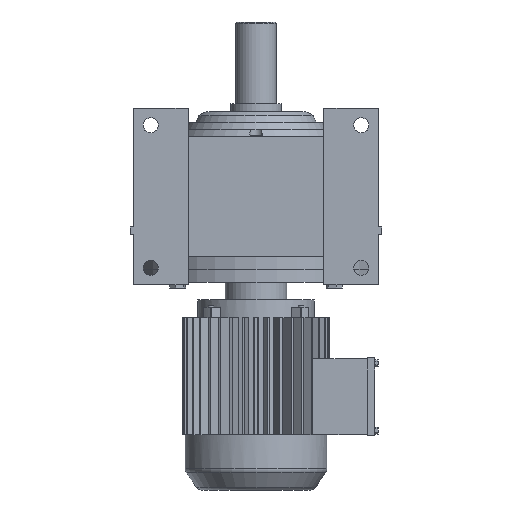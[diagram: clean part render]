
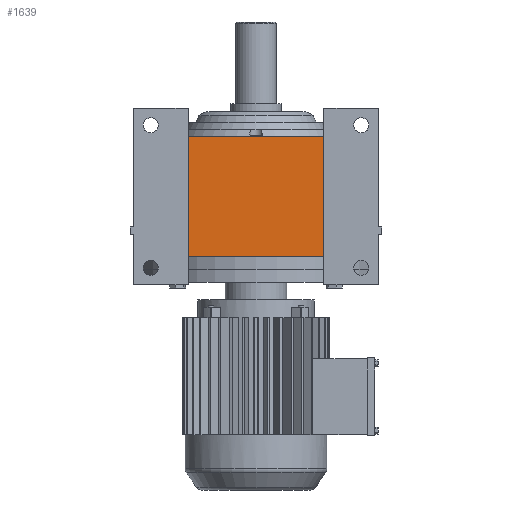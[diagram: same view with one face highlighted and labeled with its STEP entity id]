
A CAD part, front view. The second image highlights one B-rep face of the part: STEP entity #1639.
In plain terms, the highlighted planar face has unit normal (0, -1, 0).
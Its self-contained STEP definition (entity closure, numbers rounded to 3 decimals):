
#616 = PLANE('',#617);
#617 = AXIS2_PLACEMENT_3D('',#618,#619,#620);
#618 = CARTESIAN_POINT('',(-129.26,28.35,195.5));
#619 = DIRECTION('',(0.,0.,1.));
#620 = DIRECTION('',(1.,0.,0.));
#736 = VERTEX_POINT('',#737);
#737 = CARTESIAN_POINT('',(-100.,-262.5,195.5));
#753 = PLANE('',#754);
#754 = AXIS2_PLACEMENT_3D('',#755,#756,#757);
#755 = CARTESIAN_POINT('',(-100.,-225.,-23.));
#756 = DIRECTION('',(1.,0.,0.));
#757 = DIRECTION('',(0.,0.,-1.));
#765 = EDGE_CURVE('',#736,#766,#768,.T.);
#766 = VERTEX_POINT('',#767);
#767 = CARTESIAN_POINT('',(100.,-262.5,195.5));
#768 = SURFACE_CURVE('',#769,(#773,#780),.PCURVE_S1.);
#769 = LINE('',#770,#771);
#770 = CARTESIAN_POINT('',(-180.,-262.5,195.5));
#771 = VECTOR('',#772,1.);
#772 = DIRECTION('',(1.,0.,0.));
#773 = PCURVE('',#616,#774);
#774 = DEFINITIONAL_REPRESENTATION('',(#775),#779);
#775 = LINE('',#776,#777);
#776 = CARTESIAN_POINT('',(-50.74,-290.85));
#777 = VECTOR('',#778,1.);
#778 = DIRECTION('',(1.,0.));
#779 = ( GEOMETRIC_REPRESENTATION_CONTEXT(2) 
PARAMETRIC_REPRESENTATION_CONTEXT() REPRESENTATION_CONTEXT('2D SPACE',''
  ) );
#780 = PCURVE('',#781,#786);
#781 = PLANE('',#782);
#782 = AXIS2_PLACEMENT_3D('',#783,#784,#785);
#783 = CARTESIAN_POINT('',(-180.,-262.5,195.5));
#784 = DIRECTION('',(0.,1.,0.));
#785 = DIRECTION('',(0.,0.,1.));
#786 = DEFINITIONAL_REPRESENTATION('',(#787),#791);
#787 = LINE('',#788,#789);
#788 = CARTESIAN_POINT('',(0.,0.));
#789 = VECTOR('',#790,1.);
#790 = DIRECTION('',(0.,1.));
#791 = ( GEOMETRIC_REPRESENTATION_CONTEXT(2) 
PARAMETRIC_REPRESENTATION_CONTEXT() REPRESENTATION_CONTEXT('2D SPACE',''
  ) );
#809 = PLANE('',#810);
#810 = AXIS2_PLACEMENT_3D('',#811,#812,#813);
#811 = CARTESIAN_POINT('',(100.,-225.,-23.));
#812 = DIRECTION('',(-1.,0.,0.));
#813 = DIRECTION('',(0.,0.,1.));
#1639 = ADVANCED_FACE('',(#1640),#781,.F.);
#1640 = FACE_BOUND('',#1641,.T.);
#1641 = EDGE_LOOP('',(#1642,#1643,#1666,#1694));
#1642 = ORIENTED_EDGE('',*,*,#765,.F.);
#1643 = ORIENTED_EDGE('',*,*,#1644,.T.);
#1644 = EDGE_CURVE('',#736,#1645,#1647,.T.);
#1645 = VERTEX_POINT('',#1646);
#1646 = CARTESIAN_POINT('',(-100.,-262.5,18.5));
#1647 = SURFACE_CURVE('',#1648,(#1652,#1659),.PCURVE_S1.);
#1648 = LINE('',#1649,#1650);
#1649 = CARTESIAN_POINT('',(-100.,-262.5,195.5));
#1650 = VECTOR('',#1651,1.);
#1651 = DIRECTION('',(0.,0.,-1.));
#1652 = PCURVE('',#781,#1653);
#1653 = DEFINITIONAL_REPRESENTATION('',(#1654),#1658);
#1654 = LINE('',#1655,#1656);
#1655 = CARTESIAN_POINT('',(0.,80.));
#1656 = VECTOR('',#1657,1.);
#1657 = DIRECTION('',(-1.,0.));
#1658 = ( GEOMETRIC_REPRESENTATION_CONTEXT(2) 
PARAMETRIC_REPRESENTATION_CONTEXT() REPRESENTATION_CONTEXT('2D SPACE',''
  ) );
#1659 = PCURVE('',#753,#1660);
#1660 = DEFINITIONAL_REPRESENTATION('',(#1661),#1665);
#1661 = LINE('',#1662,#1663);
#1662 = CARTESIAN_POINT('',(-218.5,-37.5));
#1663 = VECTOR('',#1664,1.);
#1664 = DIRECTION('',(1.,0.));
#1665 = ( GEOMETRIC_REPRESENTATION_CONTEXT(2) 
PARAMETRIC_REPRESENTATION_CONTEXT() REPRESENTATION_CONTEXT('2D SPACE',''
  ) );
#1666 = ORIENTED_EDGE('',*,*,#1667,.T.);
#1667 = EDGE_CURVE('',#1645,#1668,#1670,.T.);
#1668 = VERTEX_POINT('',#1669);
#1669 = CARTESIAN_POINT('',(100.,-262.5,18.5));
#1670 = SURFACE_CURVE('',#1671,(#1675,#1682),.PCURVE_S1.);
#1671 = LINE('',#1672,#1673);
#1672 = CARTESIAN_POINT('',(-180.,-262.5,18.5));
#1673 = VECTOR('',#1674,1.);
#1674 = DIRECTION('',(1.,0.,0.));
#1675 = PCURVE('',#781,#1676);
#1676 = DEFINITIONAL_REPRESENTATION('',(#1677),#1681);
#1677 = LINE('',#1678,#1679);
#1678 = CARTESIAN_POINT('',(-177.,0.));
#1679 = VECTOR('',#1680,1.);
#1680 = DIRECTION('',(0.,1.));
#1681 = ( GEOMETRIC_REPRESENTATION_CONTEXT(2) 
PARAMETRIC_REPRESENTATION_CONTEXT() REPRESENTATION_CONTEXT('2D SPACE',''
  ) );
#1682 = PCURVE('',#1683,#1688);
#1683 = PLANE('',#1684);
#1684 = AXIS2_PLACEMENT_3D('',#1685,#1686,#1687);
#1685 = CARTESIAN_POINT('',(-129.26,28.35,18.5));
#1686 = DIRECTION('',(0.,0.,1.));
#1687 = DIRECTION('',(1.,0.,0.));
#1688 = DEFINITIONAL_REPRESENTATION('',(#1689),#1693);
#1689 = LINE('',#1690,#1691);
#1690 = CARTESIAN_POINT('',(-50.74,-290.85));
#1691 = VECTOR('',#1692,1.);
#1692 = DIRECTION('',(1.,0.));
#1693 = ( GEOMETRIC_REPRESENTATION_CONTEXT(2) 
PARAMETRIC_REPRESENTATION_CONTEXT() REPRESENTATION_CONTEXT('2D SPACE',''
  ) );
#1694 = ORIENTED_EDGE('',*,*,#1695,.T.);
#1695 = EDGE_CURVE('',#1668,#766,#1696,.T.);
#1696 = SURFACE_CURVE('',#1697,(#1701,#1708),.PCURVE_S1.);
#1697 = LINE('',#1698,#1699);
#1698 = CARTESIAN_POINT('',(100.,-262.5,195.5));
#1699 = VECTOR('',#1700,1.);
#1700 = DIRECTION('',(0.,0.,1.));
#1701 = PCURVE('',#781,#1702);
#1702 = DEFINITIONAL_REPRESENTATION('',(#1703),#1707);
#1703 = LINE('',#1704,#1705);
#1704 = CARTESIAN_POINT('',(0.,280.));
#1705 = VECTOR('',#1706,1.);
#1706 = DIRECTION('',(1.,0.));
#1707 = ( GEOMETRIC_REPRESENTATION_CONTEXT(2) 
PARAMETRIC_REPRESENTATION_CONTEXT() REPRESENTATION_CONTEXT('2D SPACE',''
  ) );
#1708 = PCURVE('',#809,#1709);
#1709 = DEFINITIONAL_REPRESENTATION('',(#1710),#1714);
#1710 = LINE('',#1711,#1712);
#1711 = CARTESIAN_POINT('',(218.5,-37.5));
#1712 = VECTOR('',#1713,1.);
#1713 = DIRECTION('',(1.,0.));
#1714 = ( GEOMETRIC_REPRESENTATION_CONTEXT(2) 
PARAMETRIC_REPRESENTATION_CONTEXT() REPRESENTATION_CONTEXT('2D SPACE',''
  ) );
